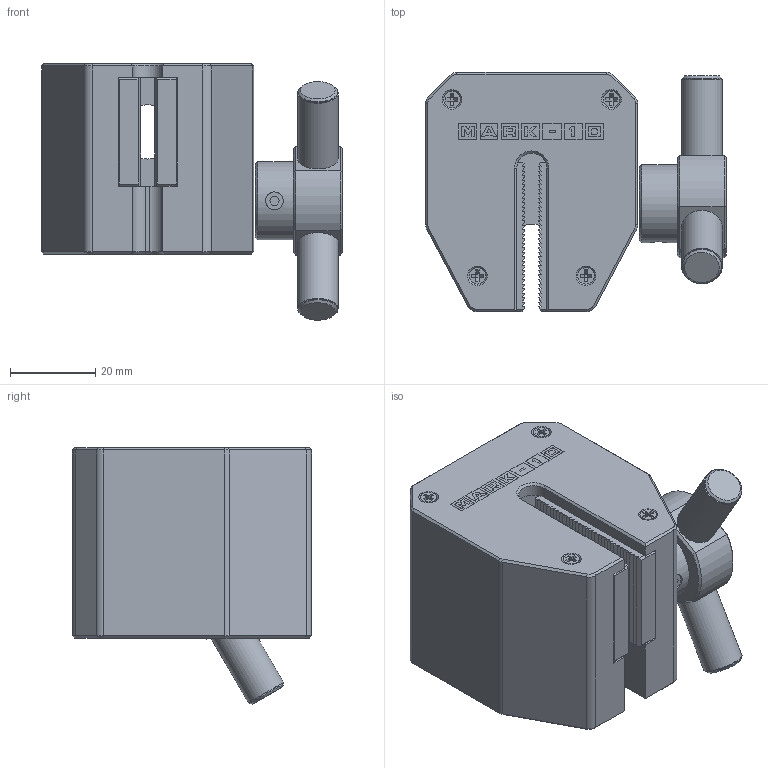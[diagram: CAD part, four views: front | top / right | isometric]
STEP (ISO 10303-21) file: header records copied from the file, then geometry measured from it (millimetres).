
FILE_DESCRIPTION((''),'2;1');
FILE_NAME('F:\CAD files\Itr\3D MARKETING MODELS\GRIPS\G1061-2\G1061-2.stp','2017-04-20T11:36:55',('mlampen'),(''),'Autodesk Inventor 2010','Autodesk Inventor 2010','');
FILE_SCHEMA(('AUTOMOTIVE_DESIGN { 1 0 10303 214 1 1 1 1 }'));
Length unit declared in the file: inch
Products named in the file (4): Assembly1; Part2; Part4; Part6
Assembly tree (3 placements, depth 2):
  Assembly1
    Part2
    Part4
    Part6
Bounding box: 70.33 x 55.96 x 59.98 mm (x, y, z)
Volume: 108528 mm3; surface area: 29928.7 mm2
Topology: 10 solids, 10 shells, 507 faces, 1253 edges, 804 vertices
Faces by surface type: plane 330, bspline 79, cylinder 57, cone 41
Full cylindrical faces by diameter (mm): 2.184 x4, 2.413 x4, 3.861 x3, 4.166 x1, 4.826 x6, 9.144 x3, 9.525 x3, 12.7 x1, 18.288 x1
Entity records: 14881 total; most frequent: CARTESIAN_POINT 3130, ORIENTED_EDGE 2402, DIRECTION 2197, EDGE_CURVE 1201, VECTOR 1025, LINE 1025, VERTEX_POINT 793, EDGE_LOOP 594
